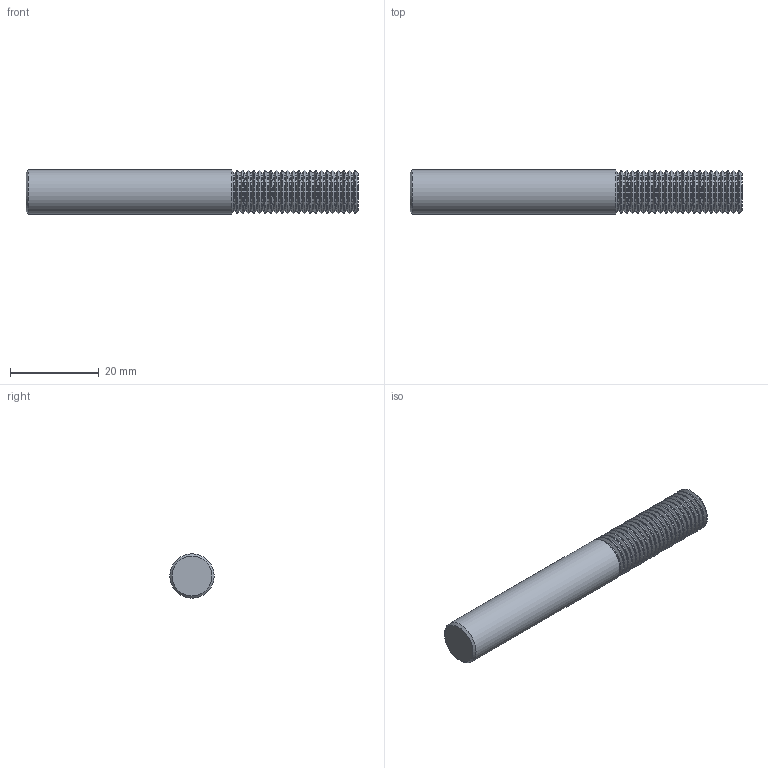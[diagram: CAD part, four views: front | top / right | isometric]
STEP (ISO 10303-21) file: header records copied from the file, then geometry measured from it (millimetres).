
FILE_DESCRIPTION(/* description */ (''),/* implementation_level */ '2;1');
FILE_NAME(/* name */ '00032356-TDM',/* time_stamp */ '2024-02-21T07:58:16+01:00',/* author */ (''),/* organization */ (''),/* preprocessor_version */ 'ST-DEVELOPER v16.5',/* originating_system */ 'HiCAD 2017 2201.0 Build 268',/* authorisation */ '');
FILE_SCHEMA (('AUTOMOTIVE_DESIGN { 1 0 10303 214 1 1 1 1 }'));
Length unit declared in the file: millimetre
Products named in the file (3): Root; ROTATIONSTEIL_0
Assembly tree (2 placements, depth 3):
  Root
    ROTATIONSTEIL_0
      ROTATIONSTEIL_0
Bounding box: 75 x 10 x 10 mm (x, y, z)
Volume: 5501.9 mm3; surface area: 3003.6 mm2
Topology: 2 solids, 2 shells, 142 faces, 280 edges, 142 vertices
Faces by surface type: cylinder 47, cone 46, torus 45, plane 4
Full cylindrical faces by diameter (mm): 8.534 x24, 9.9 x22, 10 x1
Entity records: 4284 total; most frequent: DIRECTION 572, CARTESIAN_POINT 426, AXIS2_PLACEMENT_3D 286, PRESENTATION_STYLE_ASSIGNMENT 282, COLOUR_RGB 282, DRAUGHTING_PRE_DEFINED_CURVE_FONT 280, CURVE_STYLE 280, OVER_RIDING_STYLED_ITEM 280
